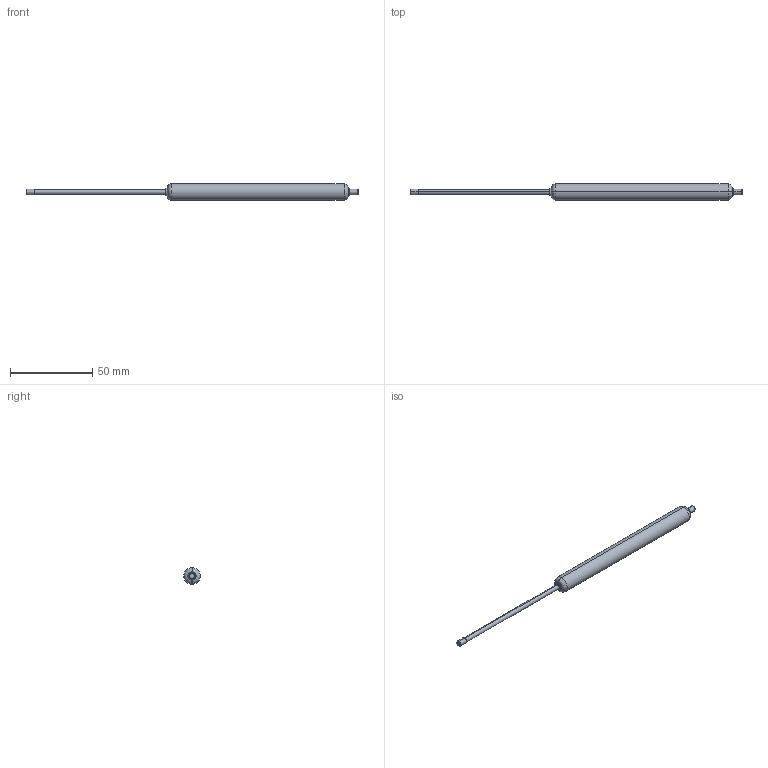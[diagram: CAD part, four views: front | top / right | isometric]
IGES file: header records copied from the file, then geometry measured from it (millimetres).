
Start section: SolidWorks IGES file using analytic representation for surfaces
Bounding box: 202 x 10 x 10 mm (x, y, z)
Surface area: 4433.1 mm2 (no closed solid volume)
Topology: 0 solids, 0 shells, 27 faces, 464 edges, 464 vertices
Faces by surface type: revolution 16, bspline 11
